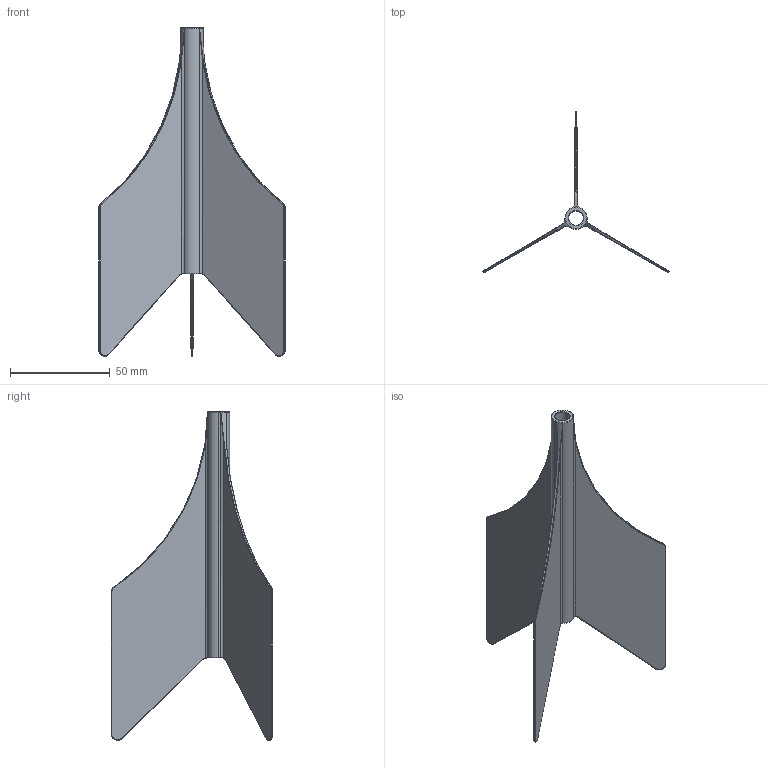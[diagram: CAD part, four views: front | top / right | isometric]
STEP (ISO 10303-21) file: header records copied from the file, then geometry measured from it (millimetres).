
FILE_DESCRIPTION (( 'STEP AP214' ), '1' );
FILE_NAME ('Flights.STEP', '2026-09-02T03:11:42', ( '' ), ( '' ), 'SwSTEP 2.0', 'SolidWorks 2025', '' );
FILE_SCHEMA (( 'AUTOMOTIVE_DESIGN' ));
Length unit declared in the file: inch
Products named in the file (1): Flights
Bounding box: 93.43 x 80.98 x 165.1 mm (x, y, z)
Volume: 22126.9 mm3; surface area: 31286.9 mm2
Topology: 1 solids, 1 shells, 135 faces, 306 edges, 161 vertices
Faces by surface type: bspline 48, torus 37, cylinder 18, sphere 18, plane 11, cone 3
Entity records: 5860 total; most frequent: CARTESIAN_POINT 3165, ORIENTED_EDGE 588, DIRECTION 545, EDGE_CURVE 294, AXIS2_PLACEMENT_3D 259, CIRCLE 171, VERTEX_POINT 161, EDGE_LOOP 137
